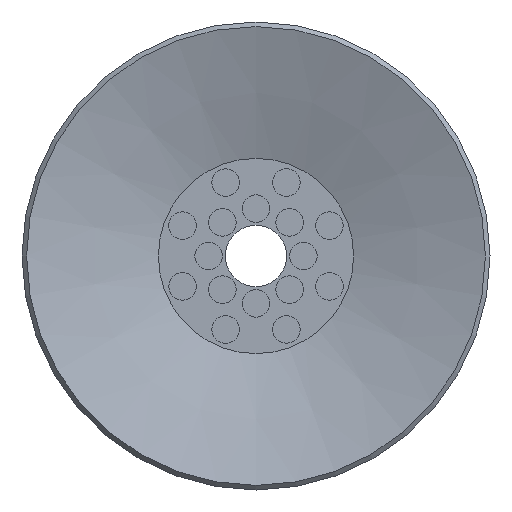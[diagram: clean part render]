
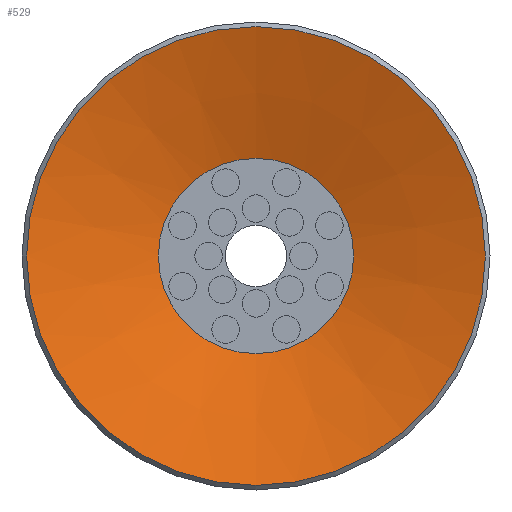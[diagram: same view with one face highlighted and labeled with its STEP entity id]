
A CAD part, front view. The second image highlights one B-rep face of the part: STEP entity #529.
In plain terms, the highlighted conical face has half-angle 72 degrees and reference radius 7.5 mm.
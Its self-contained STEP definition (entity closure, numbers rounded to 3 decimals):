
#529=ADVANCED_FACE('',(#794,#795),#796,.F.);
#794=FACE_BOUND('',#1166,.T.);
#795=FACE_OUTER_BOUND('',#1167,.T.);
#796=CONICAL_SURFACE('',#1168,7.5,1.257);
#1166=EDGE_LOOP('',(#1835));
#1167=EDGE_LOOP('',(#1836));
#1168=AXIS2_PLACEMENT_3D('',#1837,#1838,#1839);
#1835=ORIENTED_EDGE('',*,*,#2311,.T.);
#1836=ORIENTED_EDGE('',*,*,#2312,.F.);
#1837=CARTESIAN_POINT('',(0.0,0.,0.));
#1838=DIRECTION('',(0.0,0.,-1.0));
#1839=DIRECTION('',(0.0,1.0,0.));
#2311=EDGE_CURVE('',#2621,#2621,#2622,.T.);
#2312=EDGE_CURVE('',#2623,#2623,#2624,.T.);
#2621=VERTEX_POINT('',#3295);
#2622=CIRCLE('',#3296,3.191);
#2623=VERTEX_POINT('',#3297);
#2624=CIRCLE('',#3298,7.5);
#3295=CARTESIAN_POINT('',(0.0,-3.191,1.4));
#3296=AXIS2_PLACEMENT_3D('',#3674,#3675,#3676);
#3297=CARTESIAN_POINT('',(0.0,-7.5,0.));
#3298=AXIS2_PLACEMENT_3D('',#3677,#3678,#3679);
#3674=CARTESIAN_POINT('',(0.0,0.,1.4));
#3675=DIRECTION('',(0.0,0.,1.0));
#3676=DIRECTION('',(0.0,-1.0,0.));
#3677=CARTESIAN_POINT('',(0.0,0.,0.));
#3678=DIRECTION('',(0.0,0.,1.0));
#3679=DIRECTION('',(0.0,-1.0,0.));
